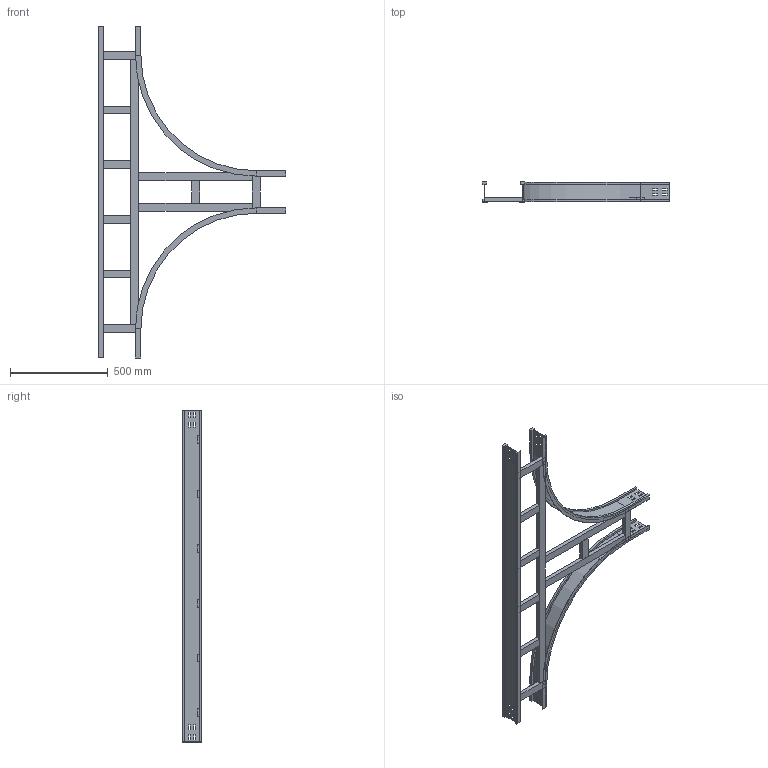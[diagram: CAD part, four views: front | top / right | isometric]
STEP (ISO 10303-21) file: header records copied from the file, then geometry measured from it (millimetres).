
FILE_DESCRIPTION (( 'STEP AP214' ), '1' );
FILE_NAME ('15S6D200.step', '2025-02-21T16:12:53', ( '' ), ( '' ), 'SwSTEP 2.0', 'SolidWorks 2023', '' );
FILE_SCHEMA (( 'AUTOMOTIVE_DESIGN' ));
Length unit declared in the file: millimetre
Products named in the file (8): TRAVERSINO_200; LONGH.INTERNO 90°_H100_R600; TRAVERSINO_INTERMEDIO_R600+200; TRAVERSINO_LONG._R600+200; TRAVERSINO_VERT_R600; TRAVERSINO_COPPIA_200; LONGH.RETT_H100_R600+200; 15S6D200
Assembly tree (14 placements, depth 2):
  15S6D200
    LONGH.INTERNO 90°_H100_R600  x2
    LONGH.RETT_H100_R600+200
    TRAVERSINO_200  x3
    TRAVERSINO_LONG._R600+200
    TRAVERSINO_INTERMEDIO_R600+200  x4
    TRAVERSINO_VERT_R600  x2
    TRAVERSINO_COPPIA_200
Bounding box: 959 x 100 x 1700 mm (x, y, z)
Volume: 5334811 mm3; surface area: 1723494 mm2
Topology: 14 solids, 14 shells, 252 faces, 624 edges, 400 vertices
Faces by surface type: plane 240, cylinder 12
Entity records: 4669 total; most frequent: CARTESIAN_POINT 775, ORIENTED_EDGE 744, DIRECTION 710, EDGE_CURVE 372, VECTOR 360, LINE 360, VERTEX_POINT 240, EDGE_LOOP 178
